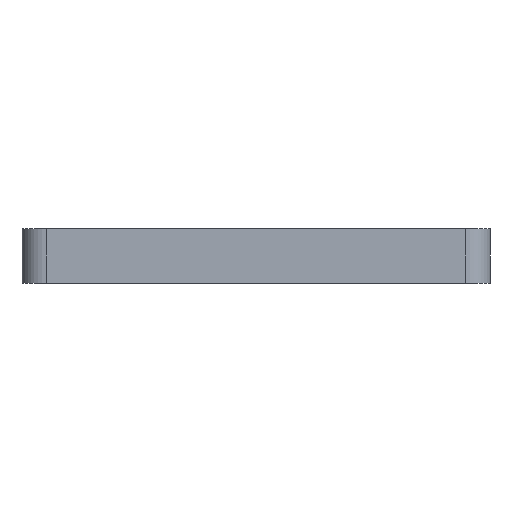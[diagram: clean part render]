
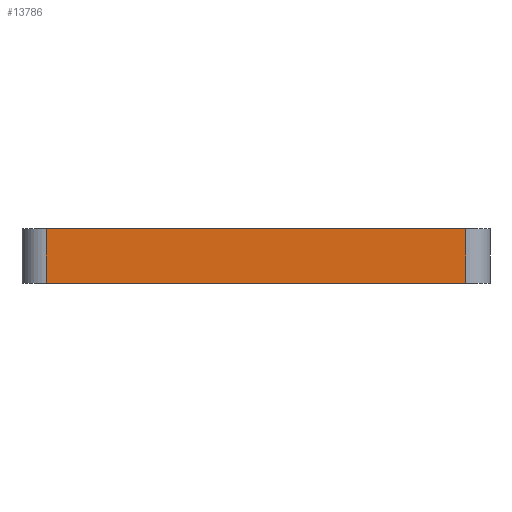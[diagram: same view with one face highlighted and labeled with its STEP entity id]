
A CAD part, left-side view. The second image highlights one B-rep face of the part: STEP entity #13786.
In plain terms, the highlighted planar face has unit normal (-1, 0, 0).
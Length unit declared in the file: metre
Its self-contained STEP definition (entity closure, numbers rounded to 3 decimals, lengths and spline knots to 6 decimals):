
#1774=ORIENTED_EDGE('',*,*,#5987,.T.);
#1775=ORIENTED_EDGE('',*,*,#5998,.T.);
#1776=ORIENTED_EDGE('',*,*,#5565,.F.);
#1777=ORIENTED_EDGE('',*,*,#5999,.T.);
#5565=EDGE_CURVE('',#7681,#7682,#8951,.T.);
#5987=EDGE_CURVE('',#8099,#8098,#9208,.T.);
#5998=EDGE_CURVE('',#8098,#7682,#9217,.T.);
#5999=EDGE_CURVE('',#7681,#8099,#9218,.F.);
#7681=VERTEX_POINT('',#18887);
#7682=VERTEX_POINT('',#18889);
#8098=VERTEX_POINT('',#19928);
#8099=VERTEX_POINT('',#19930);
#8951=LINE('',#18888,#10346);
#9208=LINE('',#19929,#10603);
#9217=LINE('',#19949,#10612);
#9218=LINE('',#19950,#10613);
#10346=VECTOR('',#15515,1.);
#10603=VECTOR('',#15918,1.);
#10612=VECTOR('',#15935,1.);
#10613=VECTOR('',#15936,1.);
#11711=EDGE_LOOP('',(#1774,#1775,#1776,#1777));
#12570=FACE_BOUND('',#11711,.T.);
#13369=PLANE('',#14690);
#13786=ADVANCED_FACE('',(#12570),#13369,.T.);
#14690=AXIS2_PLACEMENT_3D('',#19948,#15933,#15934);
#15515=DIRECTION('',(0.,-1.,0.));
#15918=DIRECTION('',(0.,-1.,0.));
#15933=DIRECTION('',(-1.,0.,0.));
#15934=DIRECTION('',(0.,0.,1.));
#15935=DIRECTION('',(0.,0.,1.));
#15936=DIRECTION('',(0.,0.,1.));
#18887=CARTESIAN_POINT('',(-0.030652,0.05206,0.0111));
#18888=CARTESIAN_POINT('',(-0.030652,0.01756,0.0111));
#18889=CARTESIAN_POINT('',(-0.030652,-0.01694,0.0111));
#19928=CARTESIAN_POINT('',(-0.030652,-0.01694,0.0021));
#19929=CARTESIAN_POINT('',(-0.030652,0.01756,0.0021));
#19930=CARTESIAN_POINT('',(-0.030652,0.05206,0.0021));
#19948=CARTESIAN_POINT('',(-0.030652,0.01756,0.0021));
#19949=CARTESIAN_POINT('',(-0.030652,-0.01694,0.0021));
#19950=CARTESIAN_POINT('',(-0.030652,0.05206,0.0021));
